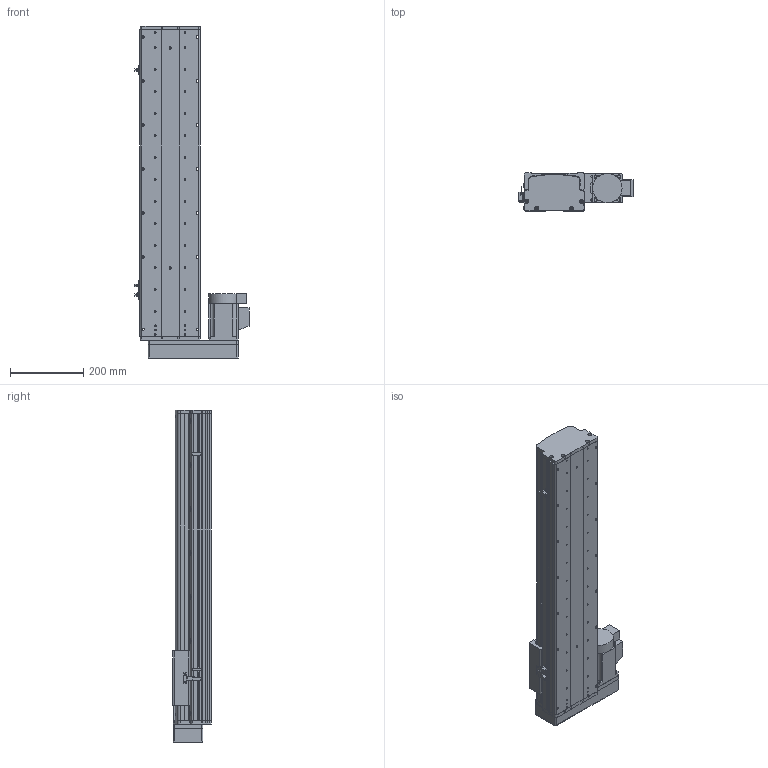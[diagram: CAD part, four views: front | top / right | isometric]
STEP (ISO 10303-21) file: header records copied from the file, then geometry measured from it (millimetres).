
FILE_DESCRIPTION (( 'STEP AP214' ), '1' );
FILE_NAME ('KSD165S-S600-ML-CM .STEP', '2017-10-17T08:53:59', ( '微软用户' ), ( '微软中国' ), 'SwSTEP 2.0', 'SolidWorks 2014', '' );
FILE_SCHEMA (( 'AUTOMOTIVE_DESIGN' ));
Length unit declared in the file: millimetre
Products named in the file (17): KSD165S-S600-ML-CM ; 覜茼え68遵圉猾敕; U倰嫖萇EEㄜSX672; 拸秶雄ん750W侜督萇儂; KSD165模组-防尘盖1-600行程-最新版; KSD165模组底板-600行程-最新; HTPA26S5M250-A-H8丝杆用(内径14）; HTPA26S5M250-A-H8 750W萇儂蚚; 肣翐M4X35樓6; 165宽模组保护罩左右折; 165宽模组马达安装板连板左右折丝杆; KSD165模组-丝杆上下左右折前端板; KSD165耀郪-佪裝-滅袉菜-3 -; KSD165耀郪-佪裝-滅袉菜-1; U倰嫖萇假蚾璃; KSD165耀郪-綴傷啣1; KSD165模组-丝杆滑动座-最新版
Assembly tree (23 placements, depth 2):
  KSD165S-S600-ML-CM 
    KSD165模组-丝杆滑动座-最新版
    KSD165耀郪-綴傷啣1
    U倰嫖萇假蚾璃  x3
    KSD165耀郪-佪裝-滅袉菜-1
    KSD165耀郪-佪裝-滅袉菜-3 -
    KSD165模组-丝杆上下左右折前端板
    165宽模组马达安装板连板左右折丝杆
    165宽模组保护罩左右折
    肣翐M4X35樓6  x4
    HTPA26S5M250-A-H8 750W萇儂蚚
    HTPA26S5M250-A-H8丝杆用(内径14）
    KSD165模组底板-600行程-最新
    KSD165模组-防尘盖1-600行程-最新版
    拸秶雄ん750W侜督萇儂
    U倰嫖萇EEㄜSX672  x3
    覜茼え68遵圉猾敕
Bounding box: 311.2 x 104 x 905.5 mm (x, y, z)
Volume: 6073787.7 mm3; surface area: 1406452.3 mm2
Topology: 24 solids, 24 shells, 1855 faces, 5226 edges, 3411 vertices
Faces by surface type: cylinder 1171, plane 575, cone 109
Entity records: 59229 total; most frequent: CARTESIAN_POINT 12319, DIRECTION 9571, ORIENTED_EDGE 8932, EDGE_CURVE 4466, AXIS2_PLACEMENT_3D 3744, VERTEX_POINT 2940, CIRCLE 2128, VECTOR 2083
